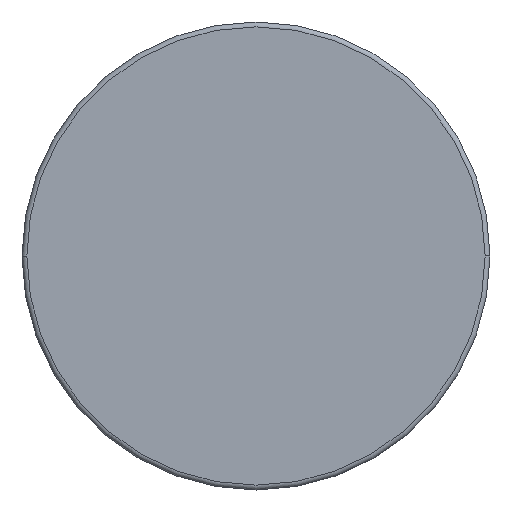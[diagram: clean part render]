
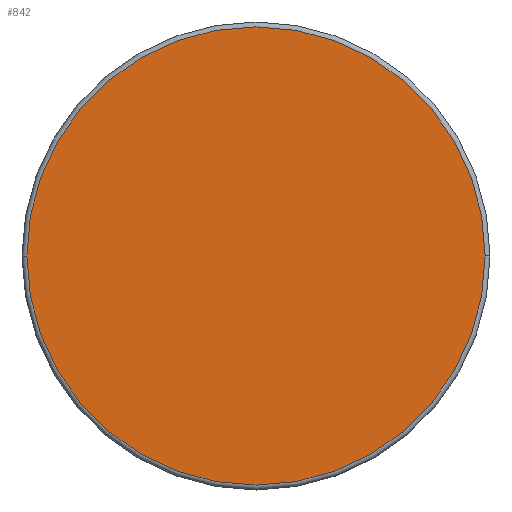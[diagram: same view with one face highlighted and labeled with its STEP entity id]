
A CAD part, front view. The second image highlights one B-rep face of the part: STEP entity #842.
In plain terms, the highlighted planar face has unit normal (0, -1, 0).
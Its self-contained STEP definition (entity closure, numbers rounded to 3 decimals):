
#333 = DIRECTION ( 'NONE',  ( -1., 0., 0. ) ) ;
#412 = DIRECTION ( 'NONE',  ( -1., 0., 0. ) ) ;
#842 = ADVANCED_FACE ( 'NONE', ( #7336 ), #3956, .F. ) ;
#1007 = CIRCLE ( 'NONE', #2947, 235. ) ;
#1030 = AXIS2_PLACEMENT_3D ( 'NONE', #2172, #3981, #333 ) ;
#2172 = CARTESIAN_POINT ( 'NONE',  ( 0., 0., 0. ) ) ;
#2640 = DIRECTION ( 'NONE',  ( 0., 1., 0. ) ) ;
#2685 = VERTEX_POINT ( 'NONE', #5356 ) ;
#2947 = AXIS2_PLACEMENT_3D ( 'NONE', #7716, #4070, #412 ) ;
#3935 = CIRCLE ( 'NONE', #6191, 235. ) ;
#3956 = PLANE ( 'NONE',  #1030 ) ;
#3981 = DIRECTION ( 'NONE',  ( 0., 1., 0. ) ) ;
#3987 = EDGE_CURVE ( 'NONE', #2685, #5520, #1007, .T. ) ;
#4070 = DIRECTION ( 'NONE',  ( 0., 1., 0. ) ) ;
#5059 = CARTESIAN_POINT ( 'NONE',  ( -235., 0., 0. ) ) ;
#5137 = ORIENTED_EDGE ( 'NONE', *, *, #3987, .F. ) ;
#5356 = CARTESIAN_POINT ( 'NONE',  ( 235., 0., 0. ) ) ;
#5520 = VERTEX_POINT ( 'NONE', #5059 ) ;
#5839 = ORIENTED_EDGE ( 'NONE', *, *, #7440, .F. ) ;
#6191 = AXIS2_PLACEMENT_3D ( 'NONE', #6299, #2640, #6909 ) ;
#6299 = CARTESIAN_POINT ( 'NONE',  ( 0., 0., 0. ) ) ;
#6417 = EDGE_LOOP ( 'NONE', ( #5839, #5137 ) ) ;
#6909 = DIRECTION ( 'NONE',  ( -1., 0., 0. ) ) ;
#7336 = FACE_OUTER_BOUND ( 'NONE', #6417, .T. ) ;
#7440 = EDGE_CURVE ( 'NONE', #5520, #2685, #3935, .T. ) ;
#7716 = CARTESIAN_POINT ( 'NONE',  ( 0., 0., 0. ) ) ;
